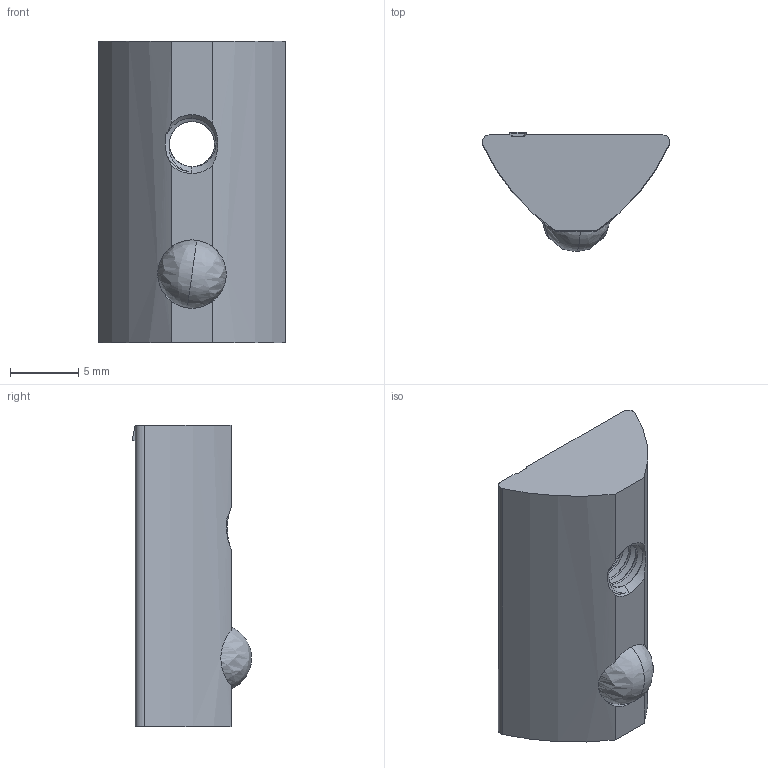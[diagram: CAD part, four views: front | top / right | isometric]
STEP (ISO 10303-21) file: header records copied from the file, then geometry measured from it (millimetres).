
FILE_DESCRIPTION (( 'STEP AP203' ), '1' );
FILE_NAME ('998086_Nutenstein 8 M4 mit Kerbe ESD (ohne Steg).step', '2022-09-16T08:49:37', ( '' ), ( '' ), 'SwSTEP 2.0', 'SolidWorks 2021', '' );
FILE_SCHEMA (( 'CONFIG_CONTROL_DESIGN' ));
Length unit declared in the file: millimetre
Products named in the file (1): 998086_Nutenstein 8 M4 mit Kerbe ESD (ohne Steg)
Bounding box: 13.7 x 8.7 x 22 mm (x, y, z)
Volume: 1368.8 mm3; surface area: 1161.9 mm2
Topology: 2 solids, 2 shells, 66 faces, 182 edges, 115 vertices
Faces by surface type: cylinder 25, plane 21, bspline 13, cone 7
Entity records: 6005 total; most frequent: CARTESIAN_POINT 4482, ORIENTED_EDGE 356, DIRECTION 232, EDGE_CURVE 178, VERTEX_POINT 115, AXIS2_PLACEMENT_3D 82, LINE 68, VECTOR 68
